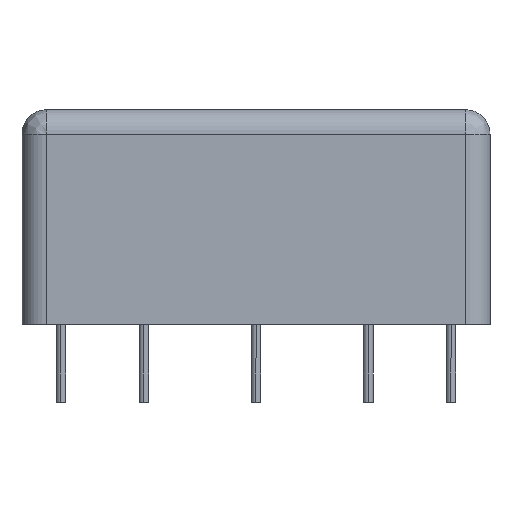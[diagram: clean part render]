
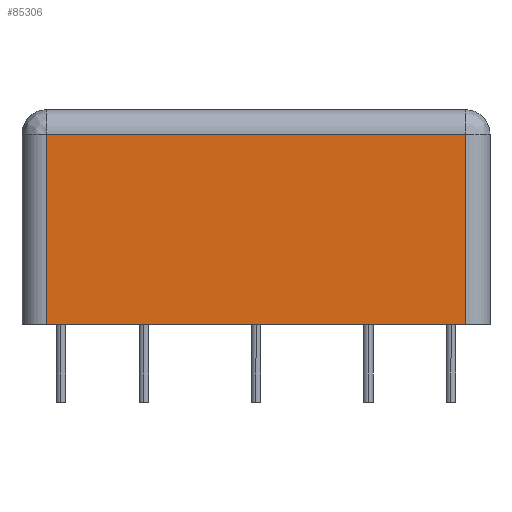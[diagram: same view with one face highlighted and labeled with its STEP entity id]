
A CAD part, front view. The second image highlights one B-rep face of the part: STEP entity #85306.
In plain terms, the highlighted planar face has unit normal (0, -1, 0) as drawn and (1, 0, 0) by its records, which use the part's own axes.
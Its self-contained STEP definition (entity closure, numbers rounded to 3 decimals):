
#3563 = ORIENTED_EDGE ( 'NONE', *, *, #51417, .F. ) ;
#9824 = DIRECTION ( 'NONE',  ( 0., 0., -1. ) ) ;
#10427 = ORIENTED_EDGE ( 'NONE', *, *, #88682, .T. ) ;
#17144 = VECTOR ( 'NONE', #72061, 1000. ) ;
#17514 = FACE_OUTER_BOUND ( 'NONE', #87829, .T. ) ;
#20090 = VECTOR ( 'NONE', #35847, 1000. ) ;
#23906 = CARTESIAN_POINT ( 'NONE',  ( 35., 24., 22. ) ) ;
#25673 = EDGE_CURVE ( 'NONE', #97277, #40292, #26976, .T. ) ;
#26976 = LINE ( 'NONE', #96287, #57541 ) ;
#32460 = DIRECTION ( 'NONE',  ( 0., -1., 0. ) ) ;
#33582 = EDGE_CURVE ( 'NONE', #36317, #97277, #104823, .T. ) ;
#33703 = CARTESIAN_POINT ( 'NONE',  ( 35., -24., 0. ) ) ;
#34137 = CARTESIAN_POINT ( 'NONE',  ( 35., 21.5, 0. ) ) ;
#35120 = CARTESIAN_POINT ( 'NONE',  ( 35., -21.5, 22. ) ) ;
#35847 = DIRECTION ( 'NONE',  ( 0., 0., 1. ) ) ;
#36317 = VERTEX_POINT ( 'NONE', #81761 ) ;
#40292 = VERTEX_POINT ( 'NONE', #34137 ) ;
#40579 = PLANE ( 'NONE',  #62993 ) ;
#50635 = ORIENTED_EDGE ( 'NONE', *, *, #25673, .F. ) ;
#51417 = EDGE_CURVE ( 'NONE', #83175, #36317, #85158, .T. ) ;
#55010 = CARTESIAN_POINT ( 'NONE',  ( 35., 24., 19.5 ) ) ;
#57541 = VECTOR ( 'NONE', #9824, 1000. ) ;
#57850 = VECTOR ( 'NONE', #84502, 1000. ) ;
#62993 = AXIS2_PLACEMENT_3D ( 'NONE', #23906, #83246, #32460 ) ;
#64225 = CARTESIAN_POINT ( 'NONE',  ( 35., -21.5, 0. ) ) ;
#72061 = DIRECTION ( 'NONE',  ( 0., 1., 0. ) ) ;
#80399 = LINE ( 'NONE', #33703, #57850 ) ;
#81761 = CARTESIAN_POINT ( 'NONE',  ( 35., -21.5, 19.5 ) ) ;
#83175 = VERTEX_POINT ( 'NONE', #64225 ) ;
#83246 = DIRECTION ( 'NONE',  ( -1., 0., 0. ) ) ;
#84502 = DIRECTION ( 'NONE',  ( 0., 1., 0. ) ) ;
#85158 = LINE ( 'NONE', #35120, #20090 ) ;
#85306 = ADVANCED_FACE ( 'NONE', ( #17514 ), #40579, .F. ) ;
#87829 = EDGE_LOOP ( 'NONE', ( #3563, #10427, #50635, #91024 ) ) ;
#88682 = EDGE_CURVE ( 'NONE', #83175, #40292, #80399, .T. ) ;
#89635 = CARTESIAN_POINT ( 'NONE',  ( 35., 21.5, 19.5 ) ) ;
#91024 = ORIENTED_EDGE ( 'NONE', *, *, #33582, .F. ) ;
#96287 = CARTESIAN_POINT ( 'NONE',  ( 35., 21.5, 22. ) ) ;
#97277 = VERTEX_POINT ( 'NONE', #89635 ) ;
#104823 = LINE ( 'NONE', #55010, #17144 ) ;
